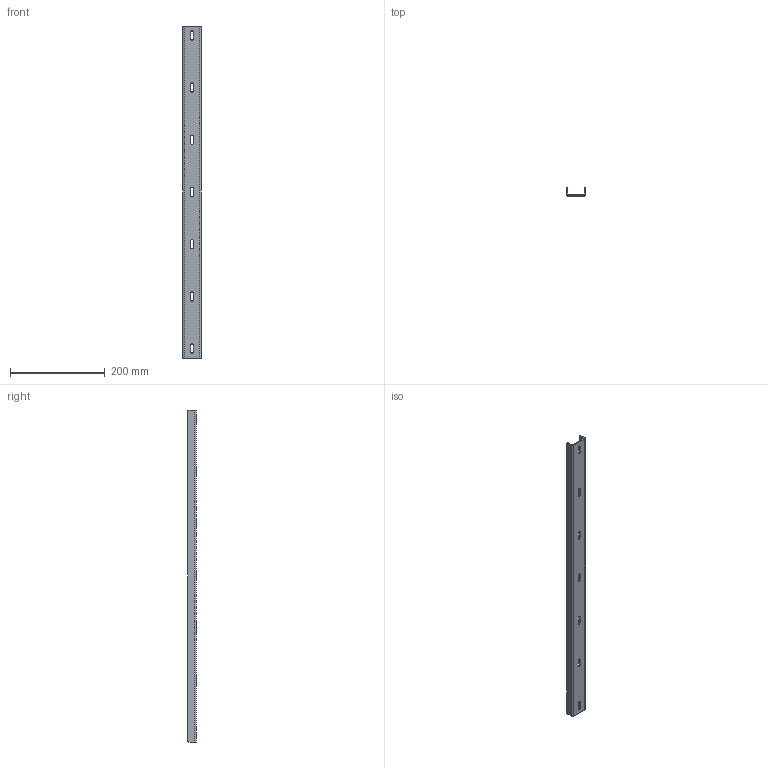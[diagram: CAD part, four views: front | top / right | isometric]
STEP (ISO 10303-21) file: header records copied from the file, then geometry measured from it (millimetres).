
FILE_DESCRIPTION (( 'STEP AP214' ), '1' );
FILE_NAME ('E441-700.STEP', '2022-05-20T09:24:40', ( '' ), ( '' ), 'SwSTEP 2.0', 'SolidWorks 2019', '' );
FILE_SCHEMA (( 'AUTOMOTIVE_DESIGN' ));
Length unit declared in the file: millimetre
Products named in the file (1): E441-700
Bounding box: 40 x 17 x 700 mm (x, y, z)
Volume: 137188.4 mm3; surface area: 97095.6 mm2
Topology: 1 solids, 1 shells, 98 faces, 276 edges, 184 vertices
Faces by surface type: plane 66, cylinder 28, bspline 4
Entity records: 3284 total; most frequent: CARTESIAN_POINT 659, ORIENTED_EDGE 552, DIRECTION 514, EDGE_CURVE 276, LINE 212, VECTOR 212, VERTEX_POINT 184, AXIS2_PLACEMENT_3D 151
